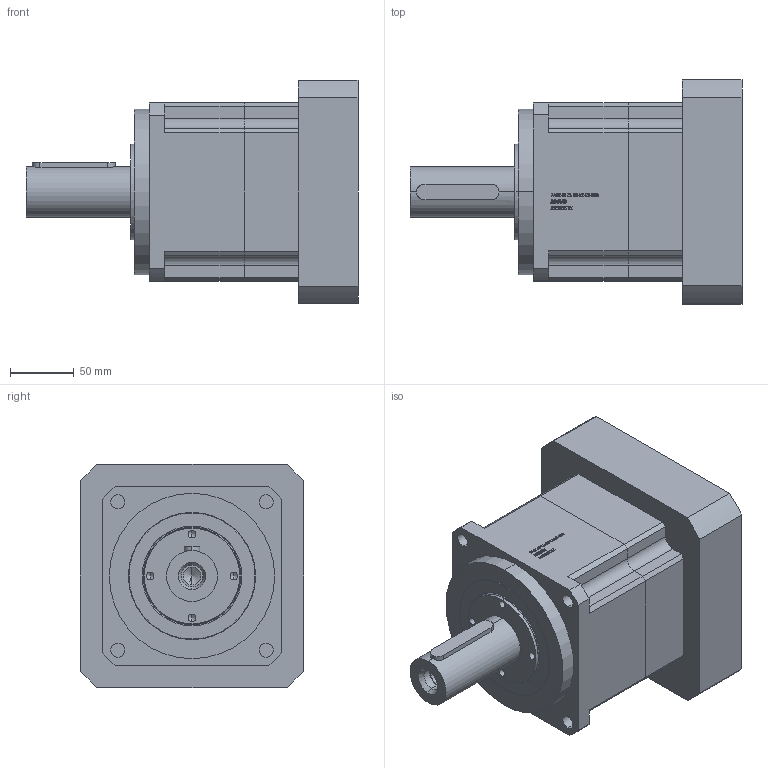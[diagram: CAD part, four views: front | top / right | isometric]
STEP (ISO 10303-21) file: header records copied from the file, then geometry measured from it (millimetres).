
FILE_DESCRIPTION (( 'STEP AP203' ), '1' );
FILE_NAME ('PAG140-L1-35-114.3-200.STEP', '2022-07-18T08:46:01', ( 'Windows User' ), ( 'P R C' ), 'SwSTEP 2.0', 'SolidWorks 2016', '' );
FILE_SCHEMA (( 'CONFIG_CONTROL_DESIGN' ));
Length unit declared in the file: millimetre
Products named in the file (8): PAG140奻裔啣; PAG140狟裔啣; PAG140 蟀諉啣 176選 114.3x10 200xM8 47L; 邧埴瑩 12x8x65; TC75-100-10_TC-34.9-55-7; TC70-95-8_TC-34.9-55-7; 囀鞠褒蹟佪-M10℅30; PAG140-L1-35-114.3-200
Assembly tree (7 placements, depth 2):
  PAG140-L1-35-114.3-200
    PAG140奻裔啣
    PAG140狟裔啣
    PAG140 蟀諉啣 176選 114.3x10 200xM8 47L
    邧埴瑩 12x8x65
    TC75-100-10_TC-34.9-55-7
    TC70-95-8_TC-34.9-55-7
    囀鞠褒蹟佪-M10℅30
Bounding box: 261 x 176 x 176 mm (x, y, z)
Volume: 3453109.2 mm3; surface area: 338775.3 mm2
Topology: 7 solids, 7 shells, 945 faces, 2474 edges, 1618 vertices
Faces by surface type: plane 552, cylinder 163, bspline 156, cone 42, torus 32
Entity records: 36253 total; most frequent: CARTESIAN_POINT 12821, ORIENTED_EDGE 4912, DIRECTION 4177, EDGE_CURVE 2456, VECTOR 1689, LINE 1689, VERTEX_POINT 1618, AXIS2_PLACEMENT_3D 1244
